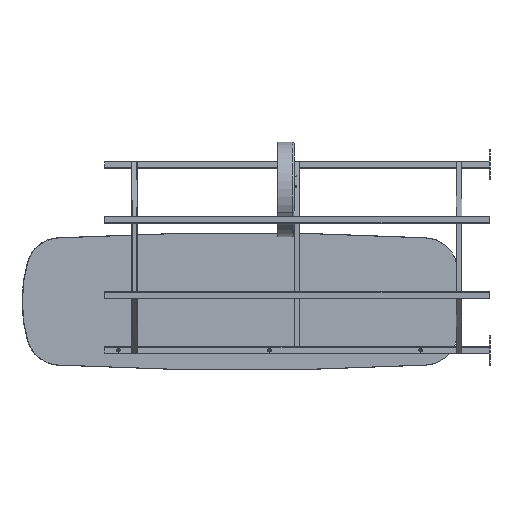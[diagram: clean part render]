
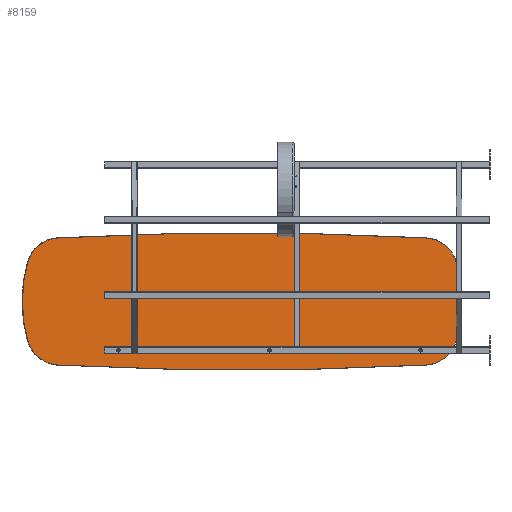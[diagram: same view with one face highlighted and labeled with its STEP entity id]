
A CAD part, left-side view. The second image highlights one B-rep face of the part: STEP entity #8159.
In plain terms, the highlighted planar face has unit normal (-0.999, -0.044, 0) as drawn and (0, 0, -1) by its records, which use the part's own axes.
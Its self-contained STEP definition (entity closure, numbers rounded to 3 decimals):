
#7590=CARTESIAN_POINT('',(177.5,451.134,0.));
#7591=DIRECTION('',(0.,0.,-1.));
#7592=DIRECTION('',(-1.,0.,0.));
#7593=AXIS2_PLACEMENT_3D('',#7590,#7591,#7592);
#7595=CARTESIAN_POINT('',(177.5,451.134,0.));
#7596=DIRECTION('',(0.,0.,-1.));
#7597=DIRECTION('',(1.,0.,0.));
#7598=AXIS2_PLACEMENT_3D('',#7595,#7596,#7597);
#7600=CARTESIAN_POINT('',(177.5,-98.866,0.));
#7601=DIRECTION('',(0.,0.,-1.));
#7602=DIRECTION('',(-1.,0.,0.));
#7603=AXIS2_PLACEMENT_3D('',#7600,#7601,#7602);
#7605=CARTESIAN_POINT('',(177.5,-98.866,0.));
#7606=DIRECTION('',(0.,0.,-1.));
#7607=DIRECTION('',(1.,0.,0.));
#7608=AXIS2_PLACEMENT_3D('',#7605,#7606,#7607);
#7610=CARTESIAN_POINT('',(177.5,-648.866,0.));
#7611=DIRECTION('',(0.,0.,-1.));
#7612=DIRECTION('',(-1.,0.,0.));
#7613=AXIS2_PLACEMENT_3D('',#7610,#7611,#7612);
#7615=CARTESIAN_POINT('',(177.5,-648.866,0.));
#7616=DIRECTION('',(0.,0.,-1.));
#7617=DIRECTION('',(1.,0.,0.));
#7618=AXIS2_PLACEMENT_3D('',#7615,#7616,#7617);
#7620=CARTESIAN_POINT('',(-110.,-199.466,0.));
#7621=DIRECTION('',(0.,0.,-1.));
#7622=DIRECTION('',(-1.,0.,0.));
#7623=AXIS2_PLACEMENT_3D('',#7620,#7621,#7622);
#7625=CARTESIAN_POINT('',(-110.,-199.466,0.));
#7626=DIRECTION('',(0.,0.,-1.));
#7627=DIRECTION('',(1.,0.,0.));
#7628=AXIS2_PLACEMENT_3D('',#7625,#7626,#7627);
#7630=CARTESIAN_POINT('',(-110.,391.134,0.));
#7631=DIRECTION('',(0.,0.,-1.));
#7632=DIRECTION('',(-1.,0.,0.));
#7633=AXIS2_PLACEMENT_3D('',#7630,#7631,#7632);
#7635=CARTESIAN_POINT('',(-110.,391.134,0.));
#7636=DIRECTION('',(0.,0.,-1.));
#7637=DIRECTION('',(1.,0.,0.));
#7638=AXIS2_PLACEMENT_3D('',#7635,#7636,#7637);
#7640=CARTESIAN_POINT('',(-11939.203,0.,0.));
#7641=DIRECTION('',(0.,0.,-1.));
#7642=DIRECTION('',(0.998,0.055,0.));
#7643=AXIS2_PLACEMENT_3D('',#7640,#7641,#7642);
#7645=CARTESIAN_POINT('',(108.82,662.122,0.));
#7646=DIRECTION('',(0.,0.,-1.));
#7647=DIRECTION('',(0.268,0.963,0.));
#7648=AXIS2_PLACEMENT_3D('',#7645,#7646,#7647);
#7650=CARTESIAN_POINT('',(0.,271.608,0.));
#7651=DIRECTION('',(0.,0.,-1.));
#7652=DIRECTION('',(-0.268,0.963,0.));
#7653=AXIS2_PLACEMENT_3D('',#7650,#7651,#7652);
#7655=CARTESIAN_POINT('',(-108.82,662.122,0.));
#7656=DIRECTION('',(0.,0.,-1.));
#7657=DIRECTION('',(-0.998,0.055,0.));
#7658=AXIS2_PLACEMENT_3D('',#7655,#7656,#7657);
#7660=CARTESIAN_POINT('',(11939.203,0.,0.));
#7661=DIRECTION('',(0.,0.,-1.));
#7662=DIRECTION('',(-0.998,-0.055,0.));
#7663=AXIS2_PLACEMENT_3D('',#7660,#7661,#7662);
#7665=CARTESIAN_POINT('',(-108.82,-662.122,0.));
#7666=DIRECTION('',(0.,0.,-1.));
#7667=DIRECTION('',(-0.268,-0.963,0.));
#7668=AXIS2_PLACEMENT_3D('',#7665,#7666,#7667);
#7670=CARTESIAN_POINT('',(0.,-271.608,0.));
#7671=DIRECTION('',(0.,0.,-1.));
#7672=DIRECTION('',(0.268,-0.963,0.));
#7673=AXIS2_PLACEMENT_3D('',#7670,#7671,#7672);
#7675=CARTESIAN_POINT('',(108.82,-662.122,0.));
#7676=DIRECTION('',(0.,0.,-1.));
#7677=DIRECTION('',(0.998,-0.055,0.));
#7678=AXIS2_PLACEMENT_3D('',#7675,#7676,#7677);
#8002=CARTESIAN_POINT('',(174.5,451.134,0.));
#8003=CARTESIAN_POINT('',(180.5,451.134,0.));
#8004=VERTEX_POINT('',#8002);
#8005=VERTEX_POINT('',#8003);
#8006=CARTESIAN_POINT('',(174.5,-98.866,0.));
#8007=CARTESIAN_POINT('',(180.5,-98.866,0.));
#8008=VERTEX_POINT('',#8006);
#8009=VERTEX_POINT('',#8007);
#8010=CARTESIAN_POINT('',(174.5,-648.866,0.));
#8011=CARTESIAN_POINT('',(180.5,-648.866,0.));
#8012=VERTEX_POINT('',#8010);
#8013=VERTEX_POINT('',#8011);
#8014=CARTESIAN_POINT('',(-113.,-199.466,0.));
#8015=CARTESIAN_POINT('',(-107.,-199.466,0.));
#8016=VERTEX_POINT('',#8014);
#8017=VERTEX_POINT('',#8015);
#8018=CARTESIAN_POINT('',(-113.,391.134,0.));
#8019=CARTESIAN_POINT('',(-107.,391.134,0.));
#8020=VERTEX_POINT('',#8018);
#8021=VERTEX_POINT('',#8019);
#8042=CARTESIAN_POINT('',(231.135,668.844,0.));
#8043=CARTESIAN_POINT('',(231.135,-668.844,0.));
#8044=VERTEX_POINT('',#8042);
#8045=VERTEX_POINT('',#8043);
#8050=CARTESIAN_POINT('',(141.702,-780.126,0.));
#8051=VERTEX_POINT('',#8050);
#8054=CARTESIAN_POINT('',(-141.702,-780.126,0.));
#8055=VERTEX_POINT('',#8054);
#8058=CARTESIAN_POINT('',(-231.135,-668.844,0.));
#8059=VERTEX_POINT('',#8058);
#8062=CARTESIAN_POINT('',(-231.135,668.844,0.));
#8063=VERTEX_POINT('',#8062);
#8066=CARTESIAN_POINT('',(-141.702,780.126,0.));
#8067=VERTEX_POINT('',#8066);
#8070=CARTESIAN_POINT('',(141.702,780.126,0.));
#8071=VERTEX_POINT('',#8070);
#8106=CARTESIAN_POINT('',(0.,0.,0.));
#8107=DIRECTION('',(0.,0.,1.));
#8108=DIRECTION('',(1.,0.,0.));
#8109=AXIS2_PLACEMENT_3D('',#8106,#8107,#8108);
#8110=PLANE('',#8109);
#8112=ORIENTED_EDGE('',*,*,#8111,.F.);
#8114=ORIENTED_EDGE('',*,*,#8113,.F.);
#8116=ORIENTED_EDGE('',*,*,#8115,.F.);
#8118=ORIENTED_EDGE('',*,*,#8117,.F.);
#8120=ORIENTED_EDGE('',*,*,#8119,.F.);
#8122=ORIENTED_EDGE('',*,*,#8121,.F.);
#8124=ORIENTED_EDGE('',*,*,#8123,.F.);
#8126=ORIENTED_EDGE('',*,*,#8125,.F.);
#8127=EDGE_LOOP('',(#8112,#8114,#8116,#8118,#8120,#8122,#8124,#8126));
#8128=FACE_OUTER_BOUND('',#8127,.F.);
#8130=ORIENTED_EDGE('',*,*,#8129,.T.);
#8132=ORIENTED_EDGE('',*,*,#8131,.T.);
#8133=EDGE_LOOP('',(#8130,#8132));
#8134=FACE_BOUND('',#8133,.F.);
#8136=ORIENTED_EDGE('',*,*,#8135,.T.);
#8138=ORIENTED_EDGE('',*,*,#8137,.T.);
#8139=EDGE_LOOP('',(#8136,#8138));
#8140=FACE_BOUND('',#8139,.F.);
#8142=ORIENTED_EDGE('',*,*,#8141,.T.);
#8144=ORIENTED_EDGE('',*,*,#8143,.T.);
#8145=EDGE_LOOP('',(#8142,#8144));
#8146=FACE_BOUND('',#8145,.F.);
#8148=ORIENTED_EDGE('',*,*,#8147,.T.);
#8150=ORIENTED_EDGE('',*,*,#8149,.T.);
#8151=EDGE_LOOP('',(#8148,#8150));
#8152=FACE_BOUND('',#8151,.F.);
#8154=ORIENTED_EDGE('',*,*,#8153,.T.);
#8156=ORIENTED_EDGE('',*,*,#8155,.T.);
#8157=EDGE_LOOP('',(#8154,#8156));
#8158=FACE_BOUND('',#8157,.F.);
#7594=CIRCLE('',#7593,3.);
#7599=CIRCLE('',#7598,3.);
#7604=CIRCLE('',#7603,3.);
#7609=CIRCLE('',#7608,3.);
#7614=CIRCLE('',#7613,3.);
#7619=CIRCLE('',#7618,3.);
#7624=CIRCLE('',#7623,3.);
#7629=CIRCLE('',#7628,3.);
#7634=CIRCLE('',#7633,3.);
#7639=CIRCLE('',#7638,3.);
#7644=CIRCLE('',#7643,12188.703);
#7649=CIRCLE('',#7648,122.5);
#7654=CIRCLE('',#7653,527.892);
#7659=CIRCLE('',#7658,122.5);
#7664=CIRCLE('',#7663,12188.703);
#7669=CIRCLE('',#7668,122.5);
#7674=CIRCLE('',#7673,527.892);
#7679=CIRCLE('',#7678,122.5);
#8111=EDGE_CURVE('',#8044,#8045,#7644,.T.);
#8113=EDGE_CURVE('',#8071,#8044,#7649,.T.);
#8115=EDGE_CURVE('',#8067,#8071,#7654,.T.);
#8117=EDGE_CURVE('',#8063,#8067,#7659,.T.);
#8119=EDGE_CURVE('',#8059,#8063,#7664,.T.);
#8121=EDGE_CURVE('',#8055,#8059,#7669,.T.);
#8123=EDGE_CURVE('',#8051,#8055,#7674,.T.);
#8125=EDGE_CURVE('',#8045,#8051,#7679,.T.);
#8129=EDGE_CURVE('',#8008,#8009,#7604,.T.);
#8131=EDGE_CURVE('',#8009,#8008,#7609,.T.);
#8135=EDGE_CURVE('',#8012,#8013,#7614,.T.);
#8137=EDGE_CURVE('',#8013,#8012,#7619,.T.);
#8141=EDGE_CURVE('',#8016,#8017,#7624,.T.);
#8143=EDGE_CURVE('',#8017,#8016,#7629,.T.);
#8147=EDGE_CURVE('',#8020,#8021,#7634,.T.);
#8149=EDGE_CURVE('',#8021,#8020,#7639,.T.);
#8153=EDGE_CURVE('',#8004,#8005,#7594,.T.);
#8155=EDGE_CURVE('',#8005,#8004,#7599,.T.);
#8159=ADVANCED_FACE('',(#8128,#8134,#8140,#8146,#8152,#8158),#8110,.F.);
